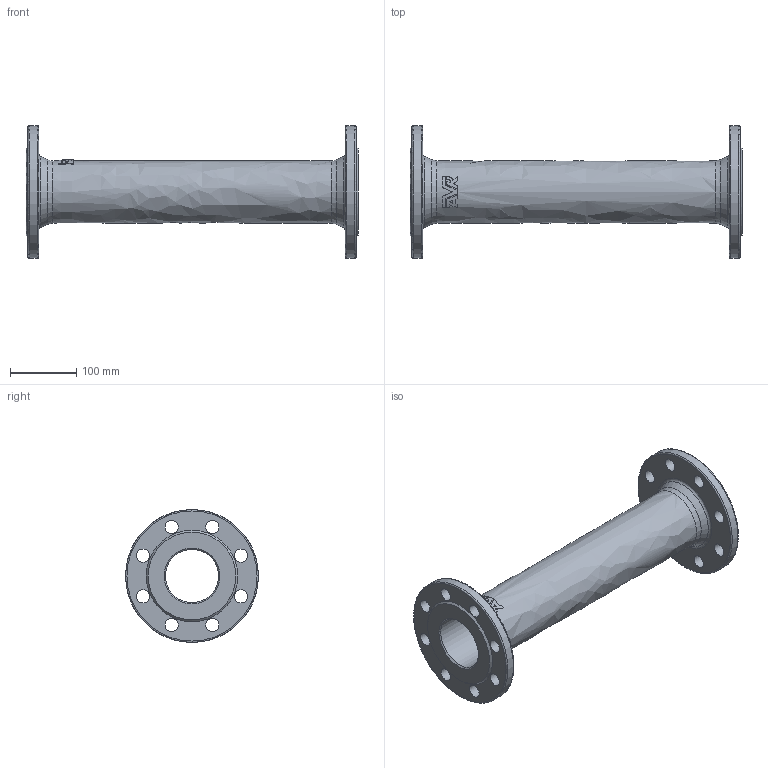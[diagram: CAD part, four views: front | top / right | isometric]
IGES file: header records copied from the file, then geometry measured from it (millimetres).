
Start section: SolidWorks IGES file using analytic representation for surfaces
Global section: file name: \\avksan2\techshare\PBM outline export from Enovia\O_712_4810_DN80_1X_REV01.igs; native system: SolidWorks 2019; preprocessor: SolidWorks 2019; author: pbm; date: 211201.111245; units: millimetre
Bounding box: 500 x 200 x 200 mm (x, y, z)
Surface area: 385137.5 mm2 (no closed solid volume)
Topology: 0 solids, 0 shells, 81 faces, 467 edges, 432 vertices
Faces by surface type: bspline 43, revolution 38
